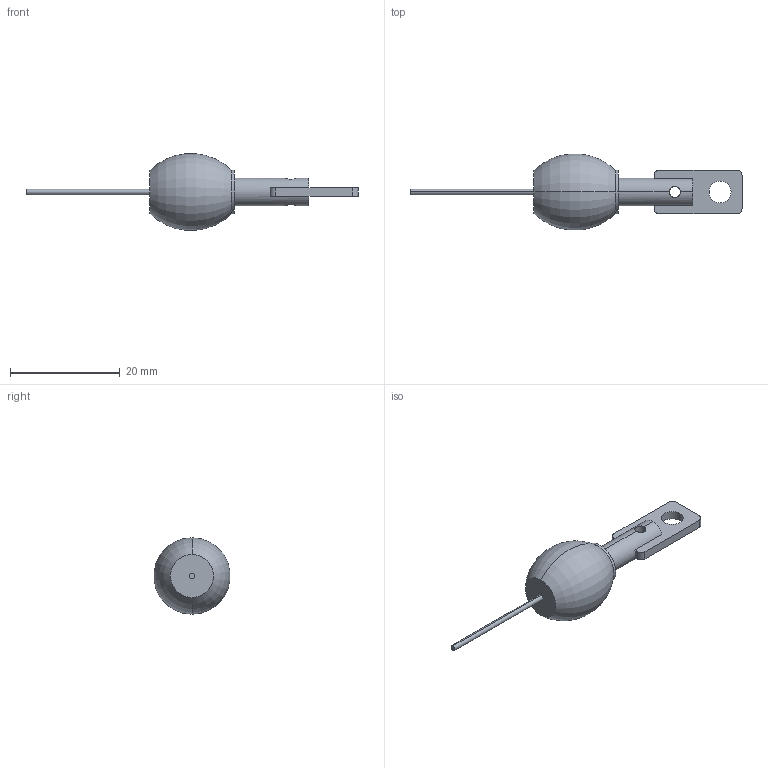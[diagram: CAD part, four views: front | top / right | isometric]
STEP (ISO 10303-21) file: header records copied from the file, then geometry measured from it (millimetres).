
FILE_DESCRIPTION (( 'STEP AP214' ), '1' );
FILE_NAME ('D-1000ZƒtƒbƒN_Assem.STEP', '2024-06-20T23:57:25', ( '' ), ( '' ), 'SwSTEP 2.0', 'SolidWorks 2023', '' );
FILE_SCHEMA (( 'AUTOMOTIVE_DESIGN' ));
Length unit declared in the file: millimetre
Products named in the file (3): D-1000Z_Part3; D-1000Zフック_Assem; D-1000Z_Part2
Assembly tree (2 placements, depth 2):
  D-1000Zフック_Assem
    D-1000Z_Part2
    D-1000Z_Part3
Bounding box: 60.43 x 13.82 x 13.92 mm (x, y, z)
Volume: 2170.2 mm3; surface area: 1377.7 mm2
Topology: 3 solids, 3 shells, 31 faces, 74 edges, 48 vertices
Faces by surface type: plane 15, cylinder 14, torus 2
Entity records: 1075 total; most frequent: CARTESIAN_POINT 226, DIRECTION 176, ORIENTED_EDGE 148, EDGE_CURVE 74, AXIS2_PLACEMENT_3D 70, VERTEX_POINT 48, VECTOR 36, LINE 36
